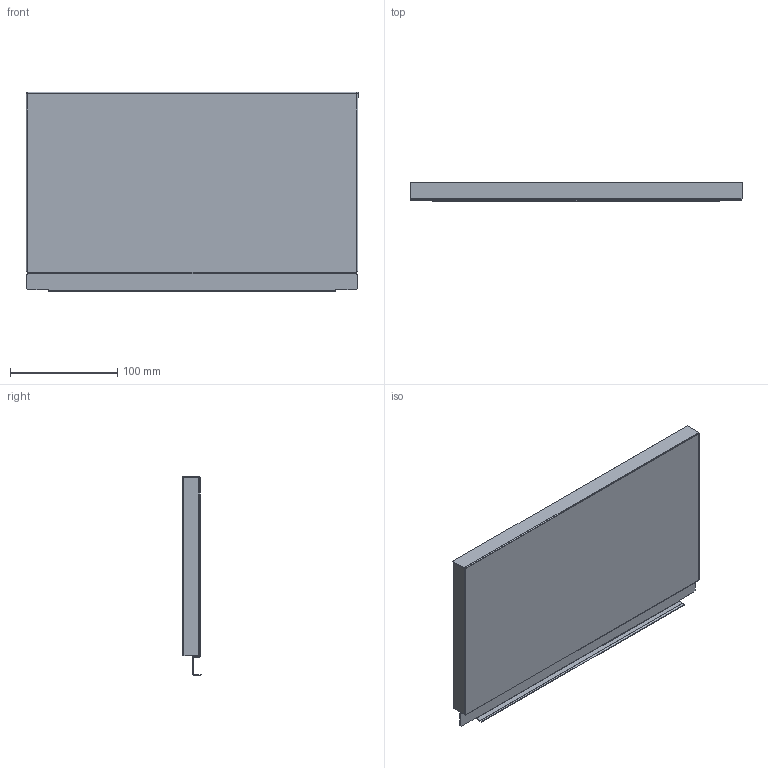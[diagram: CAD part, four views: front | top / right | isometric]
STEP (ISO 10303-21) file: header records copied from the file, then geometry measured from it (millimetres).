
FILE_DESCRIPTION (( 'STEP AP214' ), '1' );
FILE_NAME ('_STRW_H186_KAB_400.step', '2010-08-24T14:40:23', ( 'grass' ), ( '' ), 'SwSTEP 2.0', 'SolidWorks 2009', '' );
FILE_SCHEMA (( 'AUTOMOTIVE_DESIGN' ));
Length unit declared in the file: millimetre
Products named in the file (1): _STRW_H186_KAB_400
Bounding box: 310 x 17 x 186.14 mm (x, y, z)
Volume: 57972.2 mm3; surface area: 145845.9 mm2
Topology: 1 solids, 1 shells, 76 faces, 214 edges, 140 vertices
Faces by surface type: plane 54, cylinder 22
Entity records: 2472 total; most frequent: CARTESIAN_POINT 431, ORIENTED_EDGE 428, DIRECTION 412, EDGE_CURVE 214, LINE 170, VECTOR 170, VERTEX_POINT 140, AXIS2_PLACEMENT_3D 121
